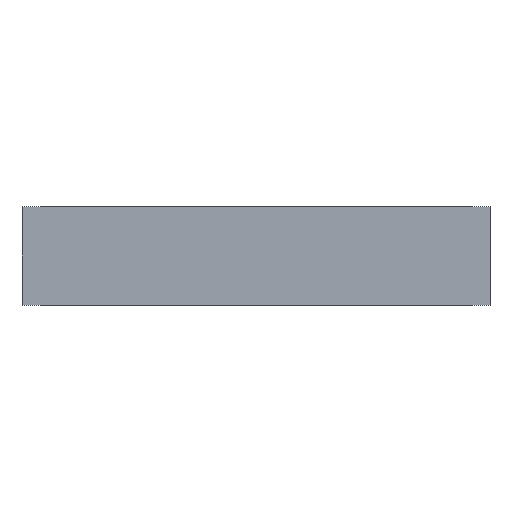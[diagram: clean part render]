
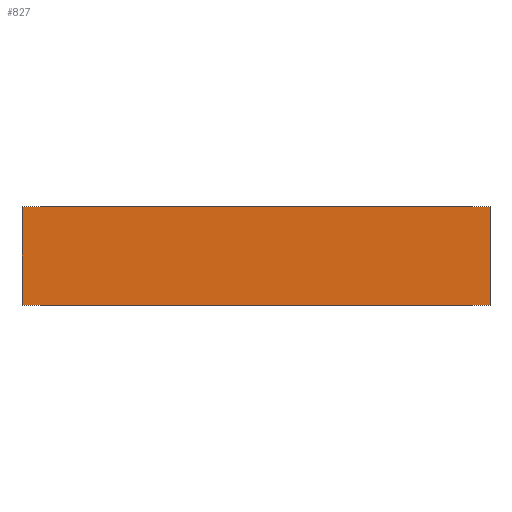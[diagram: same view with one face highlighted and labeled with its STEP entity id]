
A CAD part, front view. The second image highlights one B-rep face of the part: STEP entity #827.
In plain terms, the highlighted planar face has unit normal (0, -1, 0).
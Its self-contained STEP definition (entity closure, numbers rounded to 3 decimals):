
#37 = CARTESIAN_POINT ( 'NONE',  ( 154., 0., 65. ) ) ;
#38 = DIRECTION ( 'NONE',  ( 0., 0., -1. ) ) ;
#124 = CARTESIAN_POINT ( 'NONE',  ( -154., 0., 0. ) ) ;
#125 = DIRECTION ( 'NONE',  ( 1., 0., 0. ) ) ;
#178 = PLANE ( 'NONE',  #798 ) ;
#181 = CARTESIAN_POINT ( 'NONE',  ( -154., 0., 65. ) ) ;
#187 = DIRECTION ( 'NONE',  ( 0., 1., 0. ) ) ;
#188 = DIRECTION ( 'NONE',  ( -1., 0., 0. ) ) ;
#301 = LINE ( 'NONE', #37, #302 ) ;
#302 = VECTOR ( 'NONE', #38, 1000. ) ;
#387 = LINE ( 'NONE', #124, #388 ) ;
#388 = VECTOR ( 'NONE', #125, 1000. ) ;
#412 = FACE_OUTER_BOUND ( 'NONE', #976, .T. ) ;
#448 = VERTEX_POINT ( 'NONE', #485 ) ;
#485 = CARTESIAN_POINT ( 'NONE',  ( 154., 0., 65. ) ) ;
#486 = VERTEX_POINT ( 'NONE', #557 ) ;
#518 = VERTEX_POINT ( 'NONE', #586 ) ;
#519 = VERTEX_POINT ( 'NONE', #587 ) ;
#557 = CARTESIAN_POINT ( 'NONE',  ( 154., 0., 0. ) ) ;
#586 = CARTESIAN_POINT ( 'NONE',  ( -154., 0., 0. ) ) ;
#587 = CARTESIAN_POINT ( 'NONE',  ( -154., 0., 65. ) ) ;
#609 = CARTESIAN_POINT ( 'NONE',  ( -154., 0., 65. ) ) ;
#612 = DIRECTION ( 'NONE',  ( 0., 0., -1. ) ) ;
#619 = CARTESIAN_POINT ( 'NONE',  ( -154., 0., 65. ) ) ;
#622 = DIRECTION ( 'NONE',  ( 1., 0., 0. ) ) ;
#687 = EDGE_CURVE ( 'NONE', #519, #518, #1215, .T. ) ;
#693 = EDGE_CURVE ( 'NONE', #519, #448, #1012, .T. ) ;
#740 = EDGE_CURVE ( 'NONE', #448, #486, #301, .T. ) ;
#783 = EDGE_CURVE ( 'NONE', #518, #486, #387, .T. ) ;
#798 = AXIS2_PLACEMENT_3D ( 'NONE', #181, #187, #188 ) ;
#827 = ADVANCED_FACE ( 'NONE', ( #412 ), #178, .F. ) ;
#976 = EDGE_LOOP ( 'NONE', ( #1227, #1004, #1136, #1192 ) ) ;
#1004 = ORIENTED_EDGE ( 'NONE', *, *, #740, .F. ) ;
#1012 = LINE ( 'NONE', #619, #1194 ) ;
#1097 = VECTOR ( 'NONE', #612, 1000. ) ;
#1136 = ORIENTED_EDGE ( 'NONE', *, *, #693, .F. ) ;
#1192 = ORIENTED_EDGE ( 'NONE', *, *, #687, .T. ) ;
#1194 = VECTOR ( 'NONE', #622, 1000. ) ;
#1215 = LINE ( 'NONE', #609, #1097 ) ;
#1227 = ORIENTED_EDGE ( 'NONE', *, *, #783, .T. ) ;
